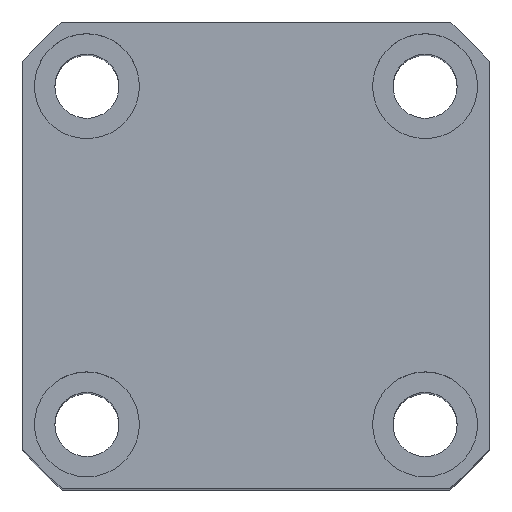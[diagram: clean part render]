
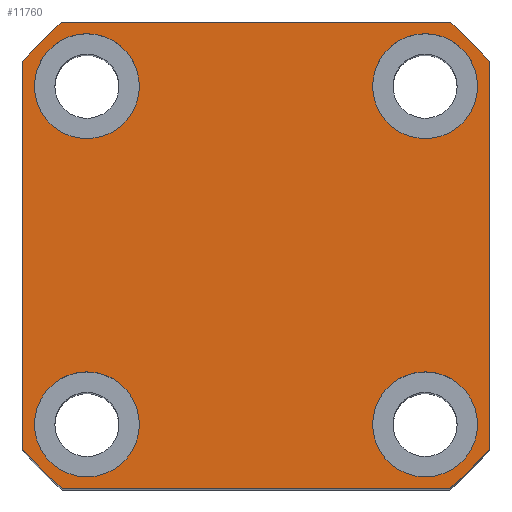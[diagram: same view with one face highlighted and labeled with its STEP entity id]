
A CAD part, top view. The second image highlights one B-rep face of the part: STEP entity #11760.
In plain terms, the highlighted planar face has unit normal (0, 0, 1).
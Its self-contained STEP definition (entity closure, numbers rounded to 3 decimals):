
#270 = CARTESIAN_POINT ( 'NONE',  ( 0., 0., 75. ) ) ;
#400 = EDGE_CURVE ( 'NONE', #12144, #3184, #10355, .T. ) ;
#943 = CARTESIAN_POINT ( 'NONE',  ( 38., 29., 75. ) ) ;
#1126 = FACE_BOUND ( 'NONE', #6829, .T. ) ;
#1137 = DIRECTION ( 'NONE',  ( 0., 0., 1. ) ) ;
#1216 = EDGE_CURVE ( 'NONE', #3184, #12144, #2941, .T. ) ;
#1296 = EDGE_CURVE ( 'NONE', #14242, #8374, #4884, .T. ) ;
#1353 = VERTEX_POINT ( 'NONE', #8804 ) ;
#1675 = EDGE_CURVE ( 'NONE', #5665, #11281, #11637, .T. ) ;
#1960 = DIRECTION ( 'NONE',  ( -1., 0., 0. ) ) ;
#2035 = EDGE_CURVE ( 'NONE', #10879, #5665, #11871, .T. ) ;
#2045 = VERTEX_POINT ( 'NONE', #8516 ) ;
#2412 = CARTESIAN_POINT ( 'NONE',  ( 33.226, 40., 75. ) ) ;
#2562 = CIRCLE ( 'NONE', #10481, 9. ) ;
#2683 = CARTESIAN_POINT ( 'NONE',  ( -29., -29., 75. ) ) ;
#2709 = CIRCLE ( 'NONE', #7099, 9. ) ;
#2721 = CARTESIAN_POINT ( 'NONE',  ( -29., 29., 75. ) ) ;
#2847 = CARTESIAN_POINT ( 'NONE',  ( -33.226, 40., 75. ) ) ;
#2866 = FACE_BOUND ( 'NONE', #10594, .T. ) ;
#2906 = EDGE_CURVE ( 'NONE', #8374, #10879, #7731, .T. ) ;
#2941 = CIRCLE ( 'NONE', #12060, 9. ) ;
#3085 = DIRECTION ( 'NONE',  ( 0., 0., 1. ) ) ;
#3164 = EDGE_CURVE ( 'NONE', #3966, #7286, #12729, .T. ) ;
#3184 = VERTEX_POINT ( 'NONE', #15437 ) ;
#3510 = DIRECTION ( 'NONE',  ( 1., 0., 0. ) ) ;
#3541 = DIRECTION ( 'NONE',  ( 0., 0., 1. ) ) ;
#3783 = CARTESIAN_POINT ( 'NONE',  ( -38., 29., 75. ) ) ;
#3966 = VERTEX_POINT ( 'NONE', #17127 ) ;
#4197 = EDGE_LOOP ( 'NONE', ( #8220, #4778, #14495, #17416, #15428, #6158, #5093, #12127 ) ) ;
#4452 = EDGE_CURVE ( 'NONE', #5141, #1353, #2709, .T. ) ;
#4553 = EDGE_CURVE ( 'NONE', #1353, #5141, #8995, .T. ) ;
#4778 = ORIENTED_EDGE ( 'NONE', *, *, #1675, .T. ) ;
#4861 = CARTESIAN_POINT ( 'NONE',  ( -33.226, 40., 75. ) ) ;
#4884 = CIRCLE ( 'NONE', #18060, 52. ) ;
#4991 = CARTESIAN_POINT ( 'NONE',  ( -33.226, -40., 75. ) ) ;
#5093 = ORIENTED_EDGE ( 'NONE', *, *, #1296, .T. ) ;
#5141 = VERTEX_POINT ( 'NONE', #943 ) ;
#5145 = EDGE_CURVE ( 'NONE', #8359, #10133, #13125, .T. ) ;
#5305 = ORIENTED_EDGE ( 'NONE', *, *, #1216, .F. ) ;
#5411 = VECTOR ( 'NONE', #12396, 1000. ) ;
#5665 = VERTEX_POINT ( 'NONE', #12551 ) ;
#5760 = DIRECTION ( 'NONE',  ( 0., -1., 0. ) ) ;
#5872 = CARTESIAN_POINT ( 'NONE',  ( 33.226, -40., 75. ) ) ;
#6004 = DIRECTION ( 'NONE',  ( 1., 0., 0. ) ) ;
#6158 = ORIENTED_EDGE ( 'NONE', *, *, #16737, .T. ) ;
#6213 = DIRECTION ( 'NONE',  ( 0., 0., 1. ) ) ;
#6241 = ORIENTED_EDGE ( 'NONE', *, *, #5145, .F. ) ;
#6242 = CARTESIAN_POINT ( 'NONE',  ( -40., -33.226, 75. ) ) ;
#6285 = VERTEX_POINT ( 'NONE', #12097 ) ;
#6299 = AXIS2_PLACEMENT_3D ( 'NONE', #16599, #12484, #12374 ) ;
#6329 = DIRECTION ( 'NONE',  ( 1., 0., 0. ) ) ;
#6730 = CARTESIAN_POINT ( 'NONE',  ( 38., -29., 75. ) ) ;
#6829 = EDGE_LOOP ( 'NONE', ( #7289, #7565 ) ) ;
#7099 = AXIS2_PLACEMENT_3D ( 'NONE', #17226, #15573, #17116 ) ;
#7179 = CARTESIAN_POINT ( 'NONE',  ( 0., 0., 75. ) ) ;
#7286 = VERTEX_POINT ( 'NONE', #5872 ) ;
#7289 = ORIENTED_EDGE ( 'NONE', *, *, #15786, .F. ) ;
#7318 = DIRECTION ( 'NONE',  ( 1., 0., 0. ) ) ;
#7531 = CARTESIAN_POINT ( 'NONE',  ( 29., 29., 75. ) ) ;
#7560 = CIRCLE ( 'NONE', #11074, 9. ) ;
#7565 = ORIENTED_EDGE ( 'NONE', *, *, #9124, .F. ) ;
#7731 = LINE ( 'NONE', #4861, #9039 ) ;
#7888 = FACE_OUTER_BOUND ( 'NONE', #4197, .T. ) ;
#8220 = ORIENTED_EDGE ( 'NONE', *, *, #2035, .T. ) ;
#8264 = CARTESIAN_POINT ( 'NONE',  ( 0., 0., 75. ) ) ;
#8267 = DIRECTION ( 'NONE',  ( 0., 0., 1. ) ) ;
#8359 = VERTEX_POINT ( 'NONE', #6730 ) ;
#8374 = VERTEX_POINT ( 'NONE', #2412 ) ;
#8516 = CARTESIAN_POINT ( 'NONE',  ( 40., -33.226, 75. ) ) ;
#8633 = EDGE_CURVE ( 'NONE', #10133, #8359, #2562, .T. ) ;
#8709 = CARTESIAN_POINT ( 'NONE',  ( 29., -29., 75. ) ) ;
#8804 = CARTESIAN_POINT ( 'NONE',  ( 20., 29., 75. ) ) ;
#8971 = CARTESIAN_POINT ( 'NONE',  ( -38., -29., 75. ) ) ;
#8995 = CIRCLE ( 'NONE', #10001, 9. ) ;
#9039 = VECTOR ( 'NONE', #1960, 1000. ) ;
#9124 = EDGE_CURVE ( 'NONE', #12609, #6285, #7560, .T. ) ;
#9411 = CARTESIAN_POINT ( 'NONE',  ( 20., -29., 75. ) ) ;
#9438 = DIRECTION ( 'NONE',  ( 1., 0., 0. ) ) ;
#9842 = ORIENTED_EDGE ( 'NONE', *, *, #4553, .F. ) ;
#10001 = AXIS2_PLACEMENT_3D ( 'NONE', #7531, #13239, #6329 ) ;
#10020 = DIRECTION ( 'NONE',  ( 0., 0., 1. ) ) ;
#10125 = AXIS2_PLACEMENT_3D ( 'NONE', #13153, #3541, #16097 ) ;
#10133 = VERTEX_POINT ( 'NONE', #9411 ) ;
#10355 = CIRCLE ( 'NONE', #13947, 9. ) ;
#10481 = AXIS2_PLACEMENT_3D ( 'NONE', #8709, #12849, #7318 ) ;
#10594 = EDGE_LOOP ( 'NONE', ( #5305, #14679 ) ) ;
#10640 = DIRECTION ( 'NONE',  ( 1., 0., 0. ) ) ;
#10765 = ORIENTED_EDGE ( 'NONE', *, *, #4452, .F. ) ;
#10810 = DIRECTION ( 'NONE',  ( 1., 0., 0. ) ) ;
#10875 = LINE ( 'NONE', #16804, #5411 ) ;
#10879 = VERTEX_POINT ( 'NONE', #2847 ) ;
#11074 = AXIS2_PLACEMENT_3D ( 'NONE', #17355, #6213, #3510 ) ;
#11128 = DIRECTION ( 'NONE',  ( 1., 0., 0. ) ) ;
#11232 = DIRECTION ( 'NONE',  ( 1., 0., 0. ) ) ;
#11281 = VERTEX_POINT ( 'NONE', #6242 ) ;
#11399 = AXIS2_PLACEMENT_3D ( 'NONE', #2683, #13699, #9438 ) ;
#11452 = EDGE_CURVE ( 'NONE', #7286, #2045, #14632, .T. ) ;
#11637 = LINE ( 'NONE', #16423, #11836 ) ;
#11760 = ADVANCED_FACE ( 'NONE', ( #15292, #1126, #2866, #12002, #7888 ), #14340, .T. ) ;
#11836 = VECTOR ( 'NONE', #5760, 1000. ) ;
#11871 = CIRCLE ( 'NONE', #14428, 52. ) ;
#12002 = FACE_BOUND ( 'NONE', #15599, .T. ) ;
#12060 = AXIS2_PLACEMENT_3D ( 'NONE', #14362, #3085, #15688 ) ;
#12097 = CARTESIAN_POINT ( 'NONE',  ( -20., -29., 75. ) ) ;
#12127 = ORIENTED_EDGE ( 'NONE', *, *, #2906, .T. ) ;
#12144 = VERTEX_POINT ( 'NONE', #3783 ) ;
#12374 = DIRECTION ( 'NONE',  ( 1., 0., 0. ) ) ;
#12396 = DIRECTION ( 'NONE',  ( 0., 1., 0. ) ) ;
#12448 = CARTESIAN_POINT ( 'NONE',  ( 40., 33.226, 75. ) ) ;
#12484 = DIRECTION ( 'NONE',  ( 0., 0., 1. ) ) ;
#12551 = CARTESIAN_POINT ( 'NONE',  ( -40., 33.226, 75. ) ) ;
#12609 = VERTEX_POINT ( 'NONE', #8971 ) ;
#12697 = EDGE_CURVE ( 'NONE', #11281, #3966, #14405, .T. ) ;
#12729 = LINE ( 'NONE', #4991, #15577 ) ;
#12757 = DIRECTION ( 'NONE',  ( 0., 0., 1. ) ) ;
#12849 = DIRECTION ( 'NONE',  ( 0., 0., 1. ) ) ;
#13125 = CIRCLE ( 'NONE', #10125, 9. ) ;
#13153 = CARTESIAN_POINT ( 'NONE',  ( 29., -29., 75. ) ) ;
#13239 = DIRECTION ( 'NONE',  ( 0., 0., 1. ) ) ;
#13699 = DIRECTION ( 'NONE',  ( 0., 0., 1. ) ) ;
#13877 = CARTESIAN_POINT ( 'NONE',  ( 0., 0., 75. ) ) ;
#13947 = AXIS2_PLACEMENT_3D ( 'NONE', #2721, #8267, #11232 ) ;
#14180 = DIRECTION ( 'NONE',  ( 1., 0., 0. ) ) ;
#14242 = VERTEX_POINT ( 'NONE', #12448 ) ;
#14290 = ORIENTED_EDGE ( 'NONE', *, *, #8633, .F. ) ;
#14340 = PLANE ( 'NONE',  #17864 ) ;
#14362 = CARTESIAN_POINT ( 'NONE',  ( -29., 29., 75. ) ) ;
#14405 = CIRCLE ( 'NONE', #6299, 52. ) ;
#14428 = AXIS2_PLACEMENT_3D ( 'NONE', #13877, #15518, #11128 ) ;
#14495 = ORIENTED_EDGE ( 'NONE', *, *, #12697, .T. ) ;
#14632 = CIRCLE ( 'NONE', #16941, 52. ) ;
#14679 = ORIENTED_EDGE ( 'NONE', *, *, #400, .F. ) ;
#15292 = FACE_BOUND ( 'NONE', #15606, .T. ) ;
#15428 = ORIENTED_EDGE ( 'NONE', *, *, #11452, .T. ) ;
#15436 = CIRCLE ( 'NONE', #11399, 9. ) ;
#15437 = CARTESIAN_POINT ( 'NONE',  ( -20., 29., 75. ) ) ;
#15518 = DIRECTION ( 'NONE',  ( 0., 0., 1. ) ) ;
#15573 = DIRECTION ( 'NONE',  ( 0., 0., 1. ) ) ;
#15577 = VECTOR ( 'NONE', #10640, 1000. ) ;
#15599 = EDGE_LOOP ( 'NONE', ( #10765, #9842 ) ) ;
#15606 = EDGE_LOOP ( 'NONE', ( #6241, #14290 ) ) ;
#15688 = DIRECTION ( 'NONE',  ( 1., 0., 0. ) ) ;
#15786 = EDGE_CURVE ( 'NONE', #6285, #12609, #15436, .T. ) ;
#16097 = DIRECTION ( 'NONE',  ( 1., 0., 0. ) ) ;
#16423 = CARTESIAN_POINT ( 'NONE',  ( -40., 33.226, 75. ) ) ;
#16599 = CARTESIAN_POINT ( 'NONE',  ( 0., 0., 75. ) ) ;
#16737 = EDGE_CURVE ( 'NONE', #2045, #14242, #10875, .T. ) ;
#16804 = CARTESIAN_POINT ( 'NONE',  ( 40., 33.226, 75. ) ) ;
#16941 = AXIS2_PLACEMENT_3D ( 'NONE', #8264, #1137, #10810 ) ;
#17116 = DIRECTION ( 'NONE',  ( 1., 0., 0. ) ) ;
#17127 = CARTESIAN_POINT ( 'NONE',  ( -33.226, -40., 75. ) ) ;
#17226 = CARTESIAN_POINT ( 'NONE',  ( 29., 29., 75. ) ) ;
#17355 = CARTESIAN_POINT ( 'NONE',  ( -29., -29., 75. ) ) ;
#17416 = ORIENTED_EDGE ( 'NONE', *, *, #3164, .T. ) ;
#17864 = AXIS2_PLACEMENT_3D ( 'NONE', #270, #10020, #6004 ) ;
#18060 = AXIS2_PLACEMENT_3D ( 'NONE', #7179, #12757, #14180 ) ;
